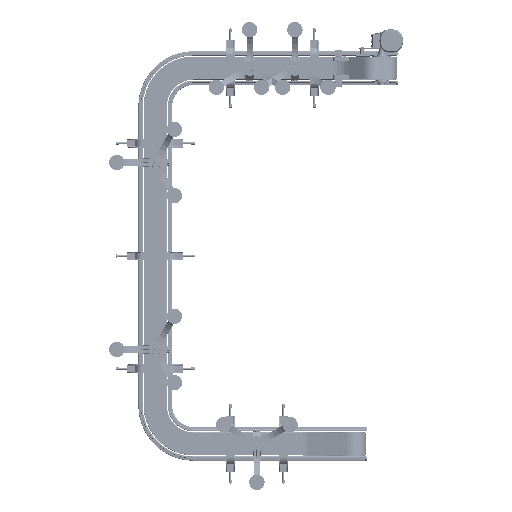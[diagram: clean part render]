
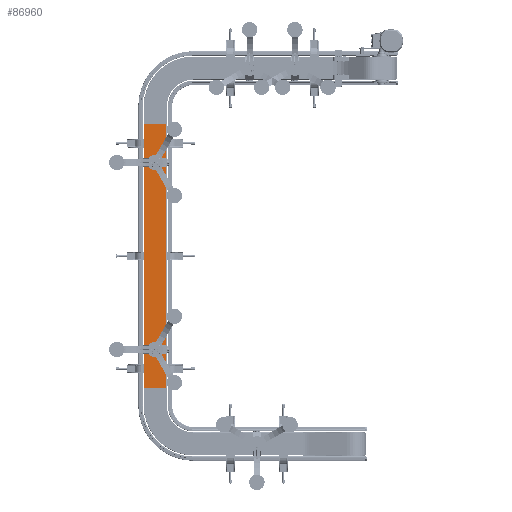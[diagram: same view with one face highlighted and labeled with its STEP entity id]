
A CAD part, front view. The second image highlights one B-rep face of the part: STEP entity #86960.
In plain terms, the highlighted planar face has unit normal (0, -1, 0).
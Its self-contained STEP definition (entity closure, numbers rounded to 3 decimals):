
#3399 = CARTESIAN_POINT ( 'NONE',  ( -1660., -105.8, 982.15 ) ) ;
#7537 = FACE_OUTER_BOUND ( 'NONE', #173810, .T. ) ;
#15622 = LINE ( 'NONE', #188784, #154816 ) ;
#16628 = DIRECTION ( 'NONE',  ( -1., 0., 0. ) ) ;
#23068 = DIRECTION ( 'NONE',  ( 0., -1., 0. ) ) ;
#24515 = CARTESIAN_POINT ( 'NONE',  ( -290., -105.8, 867.85 ) ) ;
#32244 = AXIS2_PLACEMENT_3D ( 'NONE', #40620, #23068, #118484 ) ;
#36078 = CARTESIAN_POINT ( 'NONE',  ( -290., -105.8, 982.15 ) ) ;
#40620 = CARTESIAN_POINT ( 'NONE',  ( -290., -105.8, 982.15 ) ) ;
#40660 = EDGE_CURVE ( 'NONE', #57239, #106092, #130518, .T. ) ;
#46668 = CARTESIAN_POINT ( 'NONE',  ( -290., -105.8, 982.15 ) ) ;
#55426 = VECTOR ( 'NONE', #109922, 1000. ) ;
#57239 = VERTEX_POINT ( 'NONE', #100113 ) ;
#60777 = EDGE_CURVE ( 'NONE', #118915, #57239, #188732, .T. ) ;
#67728 = LINE ( 'NONE', #196266, #137457 ) ;
#75734 = EDGE_CURVE ( 'NONE', #107547, #106092, #67728, .T. ) ;
#86960 = ADVANCED_FACE ( 'NONE', ( #7537 ), #132051, .T. ) ;
#100113 = CARTESIAN_POINT ( 'NONE',  ( -290., -105.8, 982.15 ) ) ;
#106092 = VERTEX_POINT ( 'NONE', #3399 ) ;
#106420 = EDGE_CURVE ( 'NONE', #118915, #107547, #15622, .T. ) ;
#107547 = VERTEX_POINT ( 'NONE', #181956 ) ;
#109922 = DIRECTION ( 'NONE',  ( 0., 0., 1. ) ) ;
#118484 = DIRECTION ( 'NONE',  ( 1., 0., 0. ) ) ;
#118915 = VERTEX_POINT ( 'NONE', #24515 ) ;
#122245 = ORIENTED_EDGE ( 'NONE', *, *, #60777, .T. ) ;
#128456 = ORIENTED_EDGE ( 'NONE', *, *, #75734, .F. ) ;
#130518 = LINE ( 'NONE', #36078, #168589 ) ;
#132051 = PLANE ( 'NONE',  #32244 ) ;
#132556 = DIRECTION ( 'NONE',  ( -1., 0., 0. ) ) ;
#137457 = VECTOR ( 'NONE', #194247, 1000. ) ;
#154816 = VECTOR ( 'NONE', #16628, 1000. ) ;
#164866 = ORIENTED_EDGE ( 'NONE', *, *, #106420, .F. ) ;
#168589 = VECTOR ( 'NONE', #132556, 1000. ) ;
#173810 = EDGE_LOOP ( 'NONE', ( #189035, #128456, #164866, #122245 ) ) ;
#181956 = CARTESIAN_POINT ( 'NONE',  ( -1660., -105.8, 867.85 ) ) ;
#188732 = LINE ( 'NONE', #46668, #55426 ) ;
#188784 = CARTESIAN_POINT ( 'NONE',  ( -290., -105.8, 867.85 ) ) ;
#189035 = ORIENTED_EDGE ( 'NONE', *, *, #40660, .T. ) ;
#194247 = DIRECTION ( 'NONE',  ( 0., 0., 1. ) ) ;
#196266 = CARTESIAN_POINT ( 'NONE',  ( -1660., -105.8, 982.15 ) ) ;
